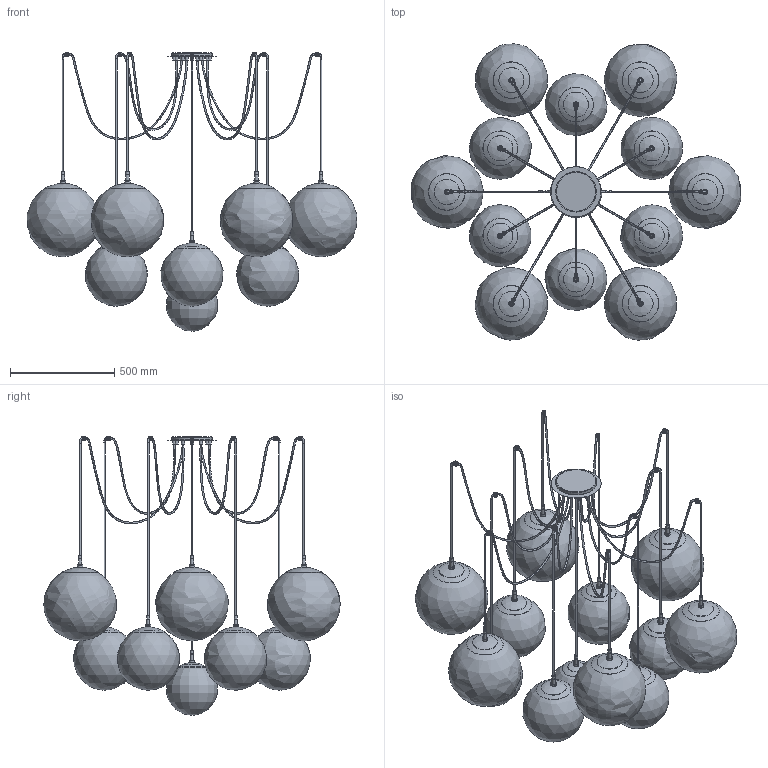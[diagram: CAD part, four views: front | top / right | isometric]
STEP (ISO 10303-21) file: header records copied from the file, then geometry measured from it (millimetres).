
FILE_DESCRIPTION(/* description */ (''),/* implementation_level */ '2;1');
FILE_NAME(/* name */ 'T:\B568 Globe Spider LG\Pliki bryłowe handlowe\B568 Spider 3D files_na stronę\B568 Spider.stp',/* time_stamp */ '2022-02-02T16:04:04+01:00',/* author */ ('Mariusz Awariusz'),/* organization */ (''),/* preprocessor_version */ 'ST-DEVELOPER v18.1',/* originating_system */ 'Autodesk Inventor 2022',/* authorisation */ '');
FILE_SCHEMA (('AUTOMOTIVE_DESIGN { 1 0 10303 214 3 1 1 }'));
Length unit declared in the file: millimetre
Products named in the file (1): B568 Globe Spider LG CE_v1_na potrzeby plików 3D_2_jako część_
korpusy bryłowe
Bounding box: 1584.07 x 1423.06 x 1337 mm (x, y, z)
Volume: 10332045.3 mm3; surface area: 9554632.3 mm2
Topology: 130 solids, 130 shells, 868 faces, 1628 edges, 1020 vertices
Faces by surface type: plane 306, cylinder 246, cone 165, torus 75, bspline 50, sphere 26
Full cylindrical faces by diameter (mm): 8 x25, 9 x12, 16 x57, 17.7 x13, 18 x24, 20 x26, 24 x6, 26 x13, 80.221 x1, 120.221 x12, 188 x1, 195 x1, 240 x1
Entity records: 34753 total; most frequent: CARTESIAN_POINT 17163, DIRECTION 3969, ORIENTED_EDGE 3204, AXIS2_PLACEMENT_3D 1710, EDGE_CURVE 1602, VERTEX_POINT 1020, EDGE_LOOP 920, FACE_OUTER_BOUND 868
